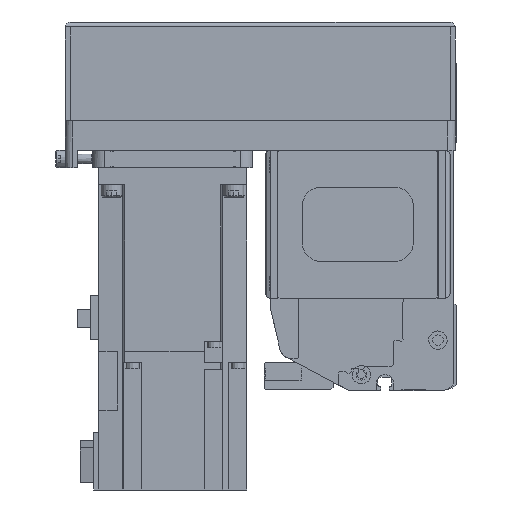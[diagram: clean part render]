
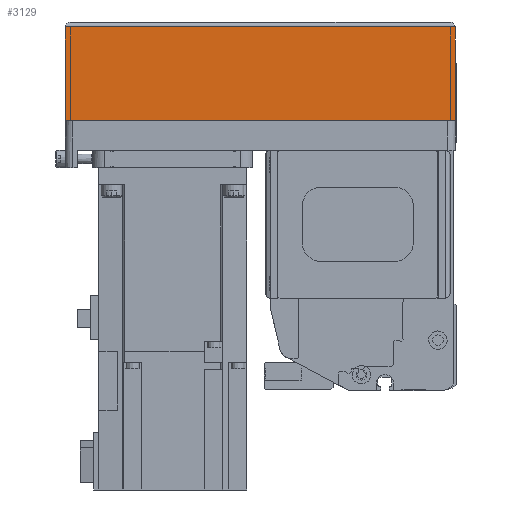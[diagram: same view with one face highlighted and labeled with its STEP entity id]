
A CAD part, left-side view. The second image highlights one B-rep face of the part: STEP entity #3129.
In plain terms, the highlighted planar face has unit normal (-1, 0, 0) as drawn and (0, 1, 0) by its records, which use the part's own axes.
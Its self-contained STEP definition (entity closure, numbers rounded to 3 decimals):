
#3129 = ADVANCED_FACE( '', ( #6744 ), #6745, .T. );
#6744 = FACE_OUTER_BOUND( '', #10609, .T. );
#6745 = PLANE( '', #10610 );
#10609 = EDGE_LOOP( '', ( #19306, #19307, #19308, #19309 ) );
#10610 = AXIS2_PLACEMENT_3D( '', #19310, #19311, #19312 );
#19306 = ORIENTED_EDGE( '', *, *, #22299, .F. );
#19307 = ORIENTED_EDGE( '', *, *, #22793, .F. );
#19308 = ORIENTED_EDGE( '', *, *, #23339, .T. );
#19309 = ORIENTED_EDGE( '', *, *, #23723, .T. );
#19310 = CARTESIAN_POINT( '', ( -158., 39., -50. ) );
#19311 = DIRECTION( '', ( 0., 1., 0. ) );
#19312 = DIRECTION( '', ( 0., 0., 1. ) );
#22299 = EDGE_CURVE( '', #26874, #26875, #26876, .T. );
#22793 = EDGE_CURVE( '', #27675, #26874, #27678, .T. );
#23339 = EDGE_CURVE( '', #27675, #28526, #28528, .T. );
#23723 = EDGE_CURVE( '', #28526, #26875, #29098, .T. );
#26874 = VERTEX_POINT( '', #33807 );
#26875 = VERTEX_POINT( '', #33808 );
#26876 = LINE( '', #33809, #33810 );
#27675 = VERTEX_POINT( '', #34997 );
#27678 = LINE( '', #35000, #35001 );
#28526 = VERTEX_POINT( '', #36363 );
#28528 = LINE( '', #36366, #36367 );
#29098 = LINE( '', #37254, #37255 );
#33807 = CARTESIAN_POINT( '', ( 0., 39., -50. ) );
#33808 = CARTESIAN_POINT( '', ( 0., 39., -12.1 ) );
#33809 = CARTESIAN_POINT( '', ( 0., 39., -50. ) );
#33810 = VECTOR( '', #41424, 1000. );
#34997 = CARTESIAN_POINT( '', ( -158., 39., -50. ) );
#35000 = CARTESIAN_POINT( '', ( -158., 39., -50. ) );
#35001 = VECTOR( '', #42018, 1000. );
#36363 = CARTESIAN_POINT( '', ( -158., 39., -12.1 ) );
#36366 = CARTESIAN_POINT( '', ( -158., 39., -50. ) );
#36367 = VECTOR( '', #42712, 1000. );
#37254 = CARTESIAN_POINT( '', ( -158., 39., -12.1 ) );
#37255 = VECTOR( '', #43188, 1000. );
#41424 = DIRECTION( '', ( 0., 0., 1. ) );
#42018 = DIRECTION( '', ( 1., 0., 0. ) );
#42712 = DIRECTION( '', ( 0., 0., 1. ) );
#43188 = DIRECTION( '', ( 1., 0., 0. ) );
